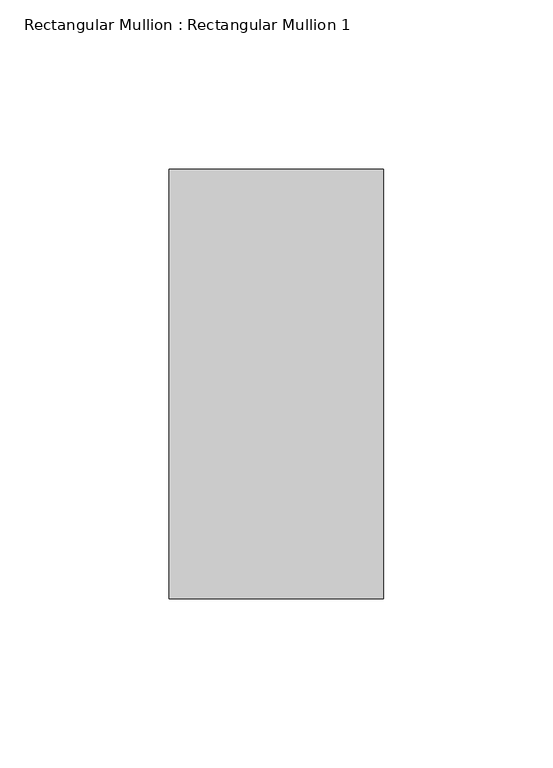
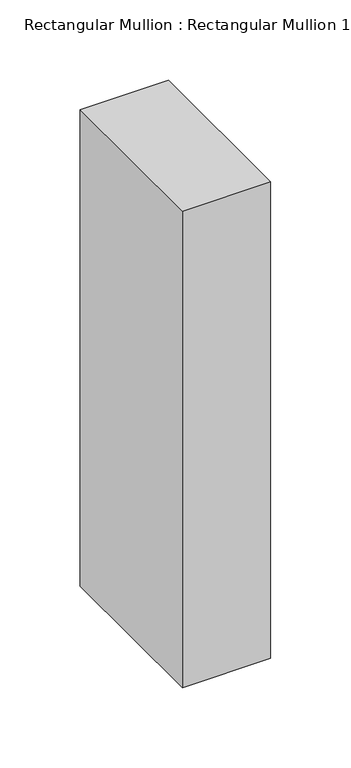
"""IFC4 building model written with IfcOpenShell, lengths in millimetres: member geometry, Rectangular Mullion : Rectangular Mullion 1."""

from ifc_helpers import new_model, si_unit, frame, origin, place, context, project, spatial, polyline, outline, extrude, source, transform, mapped, element, save


def rectangular_mullion_rectangular_mullion_1_f5ac44b7(model_context):
    return source(origin(), model_context, "Body", "SweptSolid", [
        extrude(outline(polyline([(0.0, 63.5), (0.0, -63.5), (-63.5, -63.5), (-63.5, 63.5), (0.0, 63.5)])), frame((0.0, 0.0, -361.6), z_axis=(0.0, 0.0, 1.0), x_axis=(1.0, 0.0, 0.0)), (0.0, 0.0, 1.0), 361.6),
    ])


if __name__ == "__main__":
    model = new_model("IFC4")
    model_context = context("Model", 3, world=origin())
    ifc_project = project(units=[si_unit("LENGTHUNIT", "METRE", prefix="MILLI")], contexts=[model_context])
    site = spatial("IfcSite", under=ifc_project)
    building = spatial("IfcBuilding", under=site)
    placement = place(None, origin())
    rectangular_mullion_rectangular_mullion_1_shape = rectangular_mullion_rectangular_mullion_1_f5ac44b7(model_context)
    element("IfcMember", 1, ObjectType="Rectangular Mullion : Rectangular Mullion 1", at=placement, inside=building, context=model_context, shape_type="MappedRepresentation", body=[
        mapped(rectangular_mullion_rectangular_mullion_1_shape, transform((0.0, 0.0, 0.0), x_axis=(1.0, 0.0, 0.0), y_axis=(0.0, 1.0, 0.0), z_axis=(0.0, 0.0, 1.0))),
    ])
    save(model, "model.ifc")
